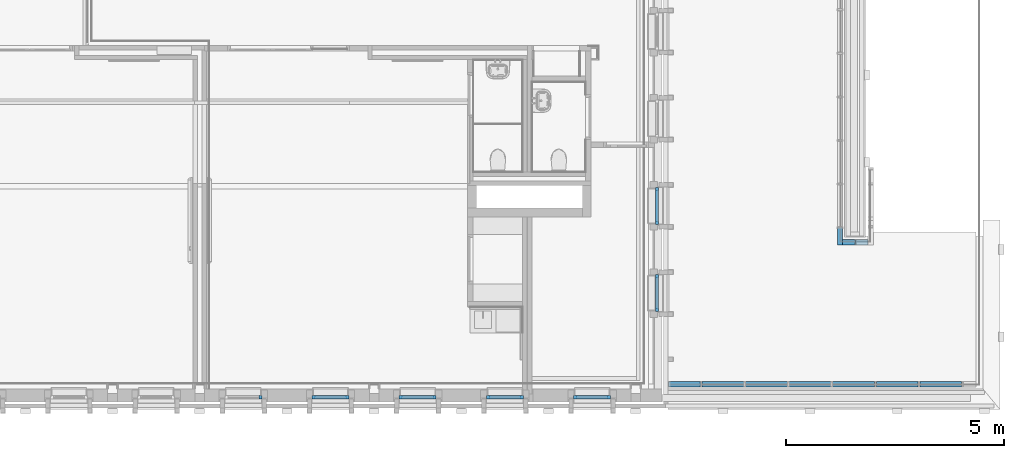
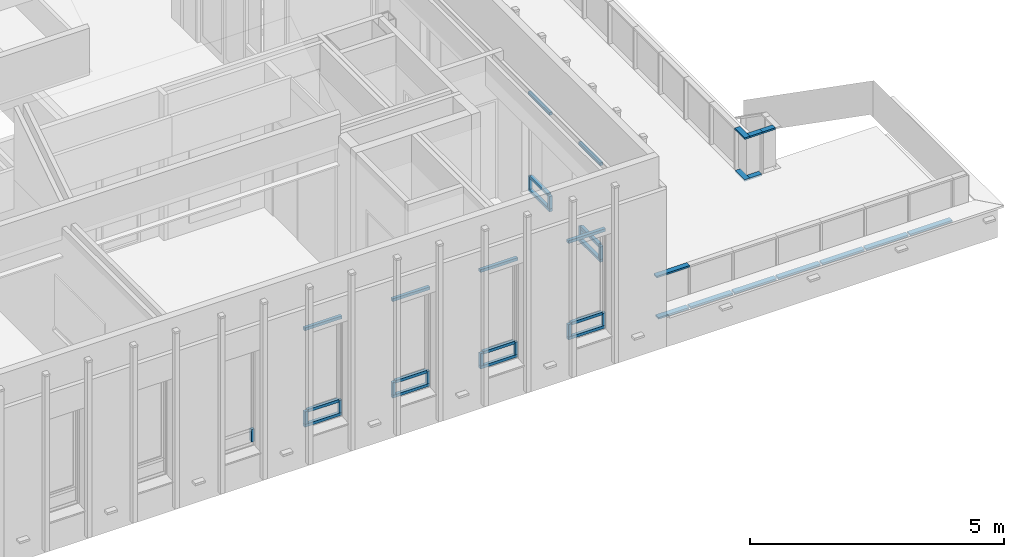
# One storey, part 10 of 118: 44 members, 10 elements without a shape of their own.
"""IFC2X3 building model written with IfcOpenShell, lengths in millimetres."""

from ifc_helpers import new_model, entity, si_unit, converted_unit, derived_unit, direction, frame, origin, origin_2d_with_axis, place, context, subcontext, project, spatial, rectangle, extrude, source, transform, mapped, material, material_list, type_object, type_shapes, element, aggregate, save


model = new_model("IFC2X3")

# Units and contexts
model_context = context("Model", 3, precision=0.01, world=origin(), true_north=direction((6.123031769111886e-17, 1.0)))
plan_context = context("Plan", 3, precision=0.01, world=origin(), true_north=direction((6.123031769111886e-17, 1.0)))
body_context = subcontext(model_context, "Body", "Model", "MODEL_VIEW")
ifc_project = project(units=[si_unit("LENGTHUNIT", "METRE", prefix="MILLI"), si_unit("AREAUNIT", "SQUARE_METRE"), si_unit("VOLUMEUNIT", "CUBIC_METRE"), converted_unit("PLANEANGLEUNIT", "DEGREE", entity("IfcRatioMeasure", 0.017453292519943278), si_unit("PLANEANGLEUNIT", "RADIAN"), dimensions=[0, 0, 0, 0, 0, 0, 0]), si_unit("MASSUNIT", "GRAM", prefix="KILO"), derived_unit("MASSDENSITYUNIT", [(si_unit("MASSUNIT", "GRAM", prefix="KILO"), 1), (si_unit("LENGTHUNIT", "METRE"), -3)]), derived_unit("IONCONCENTRATIONUNIT", [(si_unit("MASSUNIT", "GRAM", prefix="KILO"), 1), (si_unit("LENGTHUNIT", "METRE"), -3)]), derived_unit("MOMENTOFINERTIAUNIT", [(si_unit("LENGTHUNIT", "METRE"), 4)]), si_unit("TIMEUNIT", "SECOND"), si_unit("FREQUENCYUNIT", "HERTZ"), si_unit("THERMODYNAMICTEMPERATUREUNIT", "DEGREE_CELSIUS"), derived_unit("THERMALTRANSMITTANCEUNIT", [(si_unit("MASSUNIT", "GRAM", prefix="KILO"), 1), (si_unit("THERMODYNAMICTEMPERATUREUNIT", "KELVIN"), -1), (si_unit("TIMEUNIT", "SECOND"), -3)]), derived_unit("THERMALCONDUCTANCEUNIT", [(si_unit("MASSUNIT", "GRAM", prefix="KILO"), 1), (si_unit("THERMODYNAMICTEMPERATUREUNIT", "KELVIN"), -1), (si_unit("TIMEUNIT", "SECOND"), -3), (si_unit("LENGTHUNIT", "METRE"), 1)]), derived_unit("VOLUMETRICFLOWRATEUNIT", [(si_unit("LENGTHUNIT", "METRE"), 3), (si_unit("TIMEUNIT", "SECOND"), -1)]), derived_unit("MASSFLOWRATEUNIT", [(si_unit("MASSUNIT", "GRAM", prefix="KILO"), 1), (si_unit("TIMEUNIT", "SECOND"), -1)]), derived_unit("ROTATIONALFREQUENCYUNIT", [(si_unit("TIMEUNIT", "SECOND"), -1)]), si_unit("ELECTRICCURRENTUNIT", "AMPERE"), si_unit("ELECTRICVOLTAGEUNIT", "VOLT"), si_unit("POWERUNIT", "WATT"), si_unit("FORCEUNIT", "NEWTON", prefix="KILO"), si_unit("ILLUMINANCEUNIT", "LUX"), si_unit("LUMINOUSFLUXUNIT", "LUMEN"), si_unit("LUMINOUSINTENSITYUNIT", "CANDELA"), derived_unit("USERDEFINED", [(si_unit("MASSUNIT", "GRAM", prefix="KILO"), -1), (si_unit("LENGTHUNIT", "METRE"), -2), (si_unit("TIMEUNIT", "SECOND"), 3), (si_unit("LUMINOUSFLUXUNIT", "LUMEN"), 1)]), derived_unit("USERDEFINED", [(si_unit("MASSUNIT", "GRAM", prefix="KILO"), 1), (si_unit("TIMEUNIT", "SECOND"), -3), (si_unit("LENGTHUNIT", "METRE"), 3), (si_unit("ELECTRICCURRENTUNIT", "AMPERE"), -2)]), derived_unit("SOUNDPOWERUNIT", [(si_unit("MASSUNIT", "GRAM", prefix="KILO"), 1), (si_unit("TIMEUNIT", "SECOND"), -3), (si_unit("LENGTHUNIT", "METRE"), 2)]), derived_unit("SOUNDPRESSUREUNIT", [(si_unit("MASSUNIT", "GRAM", prefix="KILO"), 1), (si_unit("LENGTHUNIT", "METRE"), -1), (si_unit("TIMEUNIT", "SECOND"), -2)]), derived_unit("LINEARVELOCITYUNIT", [(si_unit("LENGTHUNIT", "METRE"), 1), (si_unit("TIMEUNIT", "SECOND"), -1)]), si_unit("PRESSUREUNIT", "PASCAL"), derived_unit("USERDEFINED", [(si_unit("MASSUNIT", "GRAM", prefix="KILO"), 1), (si_unit("LENGTHUNIT", "METRE"), -2), (si_unit("TIMEUNIT", "SECOND"), -2)]), derived_unit("LINEARFORCEUNIT", [(si_unit("MASSUNIT", "GRAM", prefix="KILO"), 1), (si_unit("TIMEUNIT", "SECOND"), -2)]), derived_unit("PLANARFORCEUNIT", [(si_unit("MASSUNIT", "GRAM", prefix="KILO"), 1), (si_unit("LENGTHUNIT", "METRE"), -1), (si_unit("TIMEUNIT", "SECOND"), -2)]), derived_unit("SPECIFICHEATCAPACITYUNIT", [(si_unit("THERMODYNAMICTEMPERATUREUNIT", "KELVIN"), -1), (si_unit("LENGTHUNIT", "METRE"), 2), (si_unit("TIMEUNIT", "SECOND"), -2)]), derived_unit("HEATINGVALUEUNIT", [(si_unit("LENGTHUNIT", "METRE"), 2), (si_unit("TIMEUNIT", "SECOND"), -2)]), derived_unit("VAPORPERMEABILITYUNIT", [(si_unit("LENGTHUNIT", "METRE"), -1), (si_unit("TIMEUNIT", "SECOND"), 1)]), derived_unit("DYNAMICVISCOSITYUNIT", [(si_unit("MASSUNIT", "GRAM", prefix="KILO"), 1), (si_unit("TIMEUNIT", "SECOND"), -1), (si_unit("LENGTHUNIT", "METRE"), -1)]), derived_unit("THERMALEXPANSIONCOEFFICIENTUNIT", [(si_unit("THERMODYNAMICTEMPERATUREUNIT", "KELVIN"), -1)]), derived_unit("MODULUSOFELASTICITYUNIT", [(si_unit("MASSUNIT", "GRAM", prefix="KILO"), 1), (si_unit("LENGTHUNIT", "METRE"), -1), (si_unit("TIMEUNIT", "SECOND"), -2)]), derived_unit("ISOTHERMALMOISTURECAPACITYUNIT", [(si_unit("LENGTHUNIT", "METRE"), 3), (si_unit("MASSUNIT", "GRAM", prefix="KILO"), -1)]), derived_unit("MOISTUREDIFFUSIVITYUNIT", [(si_unit("TIMEUNIT", "SECOND"), -1), (si_unit("LENGTHUNIT", "METRE"), 2)])], contexts=[model_context, plan_context])

# Site, building, storey
site_placement = place(None, origin())
site = spatial("IfcSite", under=ifc_project, at=site_placement, Name="Locatie", CompositionType="ELEMENT")
building_placement = place(site_placement, origin())
building = spatial("IfcBuilding", under=site, at=building_placement, Name="Bouwwerk", CompositionType="ELEMENT")
storey_placement = place(building_placement, frame((0.0, 0.0, 7800.0)))
storey = spatial("IfcBuildingStorey", under=building, at=storey_placement, Name="02 tweede verdieping", CompositionType="ELEMENT", Elevation=7800.000000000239)

# Curtain wall, member
curtain_wall_type_1 = type_object("IfcCurtainWallType", Name="Curtain Wall:NLRS_21_CW_Ontwerpkozijn_aluminium_RT72", PredefinedType="NOTDEFINED")
curtain_wall_1_placement = place(storey_placement, frame((0.0, 0.0, -7800.0)))
curtain_wall_1 = element("IfcCurtainWall", 1, at=curtain_wall_1_placement, inside=storey, type_object=curtain_wall_type_1, Name="Curtain Wall:NLRS_21_CW_Ontwerpkozijn_aluminium_RT72", ObjectType="Curtain Wall:NLRS_21_CW_Ontwerpkozijn_aluminium_RT72")
ifc_material_1 = material(Name="a_kozijn")
ifc_material_2 = material(Name="<Unnamed>")
ifc_material_list = material_list([ifc_material_2, ifc_material_1])
member_type_1 = type_object("IfcMemberType", Name="Rectangular Mullion:RT72_Vb_raam", PredefinedType="MULLION", material=ifc_material_list)
shared_shape_1 = source(origin(), body_context, "Body", "SweptSolid", [
    extrude(rectangle(XDim=71.99999999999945, YDim=68.00000000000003, at=origin_2d_with_axis()), frame((-34.0, -36.0, -850.0), z_axis=(0.0, 0.0, 1.0), x_axis=(0.0, -1.0, 0.0)), (0.0, 0.0, 1.0), 850.0000000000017),
])
type_shapes(member_type_1, [shared_shape_1])
member_1_placement = place(curtain_wall_1_placement, frame((34753.0, 13775.0, 10863.0), z_axis=(0.0, -1.0, 0.0), x_axis=(0.0, 0.0, 1.0)))
member_1 = element("IfcMember", 2, at=member_1_placement, type_object=member_type_1, material=ifc_material_1, Name="Rectangular Mullion:RT72_Vb_raam", ObjectType="Rectangular Mullion:RT72_Vb_raam", context=body_context, shape_type="MappedRepresentation", body=[
    mapped(shared_shape_1, transform((0.0, 0.0, 0.0), scale=1.0)),
])

curtain_wall_2_placement = place(storey_placement, frame((0.0, 0.0, -7800.0)))
curtain_wall_2 = element("IfcCurtainWall", 3, at=curtain_wall_2_placement, inside=storey, type_object=curtain_wall_type_1, Name="Curtain Wall:NLRS_21_CW_Ontwerpkozijn_aluminium_RT72", ObjectType="Curtain Wall:NLRS_21_CW_Ontwerpkozijn_aluminium_RT72")
member_2_placement = place(curtain_wall_2_placement, frame((26875.0, 9847.0, 10863.0), z_axis=(-1.0, 0.0, 0.0), x_axis=(0.0, 0.0, 1.0)))
member_2 = element("IfcMember", 4, at=member_2_placement, type_object=member_type_1, material=ifc_material_1, Name="Rectangular Mullion:RT72_Vb_raam", ObjectType="Rectangular Mullion:RT72_Vb_raam", context=body_context, shape_type="MappedRepresentation", body=[
    mapped(shared_shape_1, transform((0.0, 0.0, 0.0), scale=1.0)),
])

curtain_wall_3_placement = place(storey_placement, frame((0.0, 0.0, -7800.0)))
curtain_wall_3 = element("IfcCurtainWall", 5, at=curtain_wall_3_placement, inside=storey, type_object=curtain_wall_type_1, Name="Curtain Wall:NLRS_21_CW_Ontwerpkozijn_aluminium_RT72", ObjectType="Curtain Wall:NLRS_21_CW_Ontwerpkozijn_aluminium_RT72")
member_3_placement = place(curtain_wall_3_placement, frame((28875.0, 9847.0, 10863.0), z_axis=(-1.0, 0.0, 0.0), x_axis=(0.0, 0.0, 1.0)))
member_3 = element("IfcMember", 6, at=member_3_placement, type_object=member_type_1, material=ifc_material_1, Name="Rectangular Mullion:RT72_Vb_raam", ObjectType="Rectangular Mullion:RT72_Vb_raam", context=body_context, shape_type="MappedRepresentation", body=[
    mapped(shared_shape_1, transform((0.0, 0.0, 0.0), scale=1.0)),
])

curtain_wall_4_placement = place(storey_placement, frame((0.0, 0.0, -7800.0)))
curtain_wall_4 = element("IfcCurtainWall", 7, at=curtain_wall_4_placement, inside=storey, type_object=curtain_wall_type_1, Name="Curtain Wall:NLRS_21_CW_Ontwerpkozijn_aluminium_RT72", ObjectType="Curtain Wall:NLRS_21_CW_Ontwerpkozijn_aluminium_RT72")
member_4_placement = place(curtain_wall_4_placement, frame((32875.0, 9847.0, 10863.0), z_axis=(-1.0, 0.0, 0.0), x_axis=(0.0, 0.0, 1.0)))
member_4 = element("IfcMember", 8, at=member_4_placement, type_object=member_type_1, material=ifc_material_1, Name="Rectangular Mullion:RT72_Vb_raam", ObjectType="Rectangular Mullion:RT72_Vb_raam", context=body_context, shape_type="MappedRepresentation", body=[
    mapped(shared_shape_1, transform((0.0, 0.0, 0.0), scale=1.0)),
])

curtain_wall_5_placement = place(storey_placement, frame((0.0, 0.0, -7800.0)))
curtain_wall_5 = element("IfcCurtainWall", 9, at=curtain_wall_5_placement, inside=storey, type_object=curtain_wall_type_1, Name="Curtain Wall:NLRS_21_CW_Ontwerpkozijn_aluminium_RT72", ObjectType="Curtain Wall:NLRS_21_CW_Ontwerpkozijn_aluminium_RT72")
member_5_placement = place(curtain_wall_5_placement, frame((34753.0, 11775.0, 10863.0), z_axis=(0.0, -1.0, 0.0), x_axis=(0.0, 0.0, 1.0)))
member_5 = element("IfcMember", 10, at=member_5_placement, type_object=member_type_1, material=ifc_material_1, Name="Rectangular Mullion:RT72_Vb_raam", ObjectType="Rectangular Mullion:RT72_Vb_raam", context=body_context, shape_type="MappedRepresentation", body=[
    mapped(shared_shape_1, transform((0.0, 0.0, 0.0), scale=1.0)),
])

curtain_wall_6_placement = place(storey_placement, frame((0.0, 0.0, -7800.0)))
curtain_wall_6 = element("IfcCurtainWall", 11, at=curtain_wall_6_placement, inside=storey, type_object=curtain_wall_type_1, Name="Curtain Wall:NLRS_21_CW_Ontwerpkozijn_aluminium_RT72", ObjectType="Curtain Wall:NLRS_21_CW_Ontwerpkozijn_aluminium_RT72")
member_6_placement = place(curtain_wall_6_placement, frame((30875.0, 9847.0, 10863.0), z_axis=(-1.0, 0.0, 0.0), x_axis=(0.0, 0.0, 1.0)))
member_6 = element("IfcMember", 12, at=member_6_placement, type_object=member_type_1, material=ifc_material_1, Name="Rectangular Mullion:RT72_Vb_raam", ObjectType="Rectangular Mullion:RT72_Vb_raam", context=body_context, shape_type="MappedRepresentation", body=[
    mapped(shared_shape_1, transform((0.0, 0.0, 0.0), scale=1.0)),
])

# Member
member_type_2 = type_object("IfcMemberType", Name="Rectangular Mullion:RT72_Vo_raam", PredefinedType="MULLION", material=ifc_material_list)
shared_shape_2 = source(origin(), body_context, "Body", "SweptSolid", [
    extrude(rectangle(XDim=71.99999999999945, YDim=68.00000000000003, at=origin_2d_with_axis()), frame((-34.0, -36.0, -850.0), z_axis=(0.0, 0.0, 1.0), x_axis=(0.0, -1.0, 0.0)), (0.0, 0.0, 1.0), 850.0000000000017),
])
type_shapes(member_type_2, [shared_shape_2])
member_7_placement = place(curtain_wall_1_placement, frame((34753.0, 14625.0, 8473.0), z_axis=(0.0, 1.0, 0.0), x_axis=(0.0, 0.0, -1.0)))
member_7 = element("IfcMember", 13, at=member_7_placement, type_object=member_type_2, material=ifc_material_1, Name="Rectangular Mullion:RT72_Vo_raam", ObjectType="Rectangular Mullion:RT72_Vo_raam", context=body_context, shape_type="MappedRepresentation", body=[
    mapped(shared_shape_2, transform((0.0, 0.0, 0.0), scale=1.0)),
])

member_8_placement = place(curtain_wall_2_placement, frame((27725.0, 9847.0, 8473.0), z_axis=(1.0, 0.0, 0.0), x_axis=(0.0, 0.0, -1.0)))
member_8 = element("IfcMember", 14, at=member_8_placement, type_object=member_type_2, material=ifc_material_1, Name="Rectangular Mullion:RT72_Vo_raam", ObjectType="Rectangular Mullion:RT72_Vo_raam", context=body_context, shape_type="MappedRepresentation", body=[
    mapped(shared_shape_2, transform((0.0, 0.0, 0.0), scale=1.0)),
])

member_9_placement = place(curtain_wall_3_placement, frame((29725.0, 9847.0, 8473.0), z_axis=(1.0, 0.0, 0.0), x_axis=(0.0, 0.0, -1.0)))
member_9 = element("IfcMember", 15, at=member_9_placement, type_object=member_type_2, material=ifc_material_1, Name="Rectangular Mullion:RT72_Vo_raam", ObjectType="Rectangular Mullion:RT72_Vo_raam", context=body_context, shape_type="MappedRepresentation", body=[
    mapped(shared_shape_2, transform((0.0, 0.0, 0.0), scale=1.0)),
])

member_10_placement = place(curtain_wall_4_placement, frame((33725.0, 9847.0, 8473.0), z_axis=(1.0, 0.0, 0.0), x_axis=(0.0, 0.0, -1.0)))
member_10 = element("IfcMember", 16, at=member_10_placement, type_object=member_type_2, material=ifc_material_1, Name="Rectangular Mullion:RT72_Vo_raam", ObjectType="Rectangular Mullion:RT72_Vo_raam", context=body_context, shape_type="MappedRepresentation", body=[
    mapped(shared_shape_2, transform((0.0, 0.0, 0.0), scale=1.0)),
])

member_11_placement = place(curtain_wall_5_placement, frame((34753.0, 12625.0, 8473.0), z_axis=(0.0, 1.0, 0.0), x_axis=(0.0, 0.0, -1.0)))
member_11 = element("IfcMember", 17, at=member_11_placement, type_object=member_type_2, material=ifc_material_1, Name="Rectangular Mullion:RT72_Vo_raam", ObjectType="Rectangular Mullion:RT72_Vo_raam", context=body_context, shape_type="MappedRepresentation", body=[
    mapped(shared_shape_2, transform((0.0, 0.0, 0.0), scale=1.0)),
])

member_12_placement = place(curtain_wall_6_placement, frame((31725.0, 9847.0, 8473.0), z_axis=(1.0, 0.0, 0.0), x_axis=(0.0, 0.0, -1.0)))
member_12 = element("IfcMember", 18, at=member_12_placement, type_object=member_type_2, material=ifc_material_1, Name="Rectangular Mullion:RT72_Vo_raam", ObjectType="Rectangular Mullion:RT72_Vo_raam", context=body_context, shape_type="MappedRepresentation", body=[
    mapped(shared_shape_2, transform((0.0, 0.0, 0.0), scale=1.0)),
])

member_type_3 = type_object("IfcMemberType", Name="Rectangular Mullion:RT72_Hl_raam", PredefinedType="MULLION", material=ifc_material_list)
shared_shape_3 = source(origin(), body_context, "Body", "SweptSolid", [
    extrude(rectangle(XDim=71.99999999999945, YDim=68.00000000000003, at=origin_2d_with_axis()), frame((-34.0, -36.0, -301.0), z_axis=(0.0, 0.0, 1.0), x_axis=(0.0, -1.0, 0.0)), (0.0, 0.0, 1.0), 301.00000000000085),
])
type_shapes(member_type_3, [shared_shape_3])
member_13_placement = place(curtain_wall_1_placement, frame((34753.0, 13775.0, 8541.0), z_axis=(0.0, 0.0, -1.0), x_axis=(0.0, -1.0, 0.0)))
member_13 = element("IfcMember", 19, at=member_13_placement, type_object=member_type_3, material=ifc_material_1, Name="Rectangular Mullion:RT72_Hl_raam", ObjectType="Rectangular Mullion:RT72_Hl_raam", context=body_context, shape_type="MappedRepresentation", body=[
    mapped(shared_shape_3, transform((0.0, 0.0, 0.0), scale=1.0)),
])

member_14_placement = place(curtain_wall_2_placement, frame((26875.0, 9847.0, 8541.0), z_axis=(0.0, 0.0, -1.0), x_axis=(-1.0, 0.0, 0.0)))
member_14 = element("IfcMember", 20, at=member_14_placement, type_object=member_type_3, material=ifc_material_1, Name="Rectangular Mullion:RT72_Hl_raam", ObjectType="Rectangular Mullion:RT72_Hl_raam", context=body_context, shape_type="MappedRepresentation", body=[
    mapped(shared_shape_3, transform((0.0, 0.0, 0.0), scale=1.0)),
])

member_15_placement = place(curtain_wall_3_placement, frame((28875.0, 9847.0, 8541.0), z_axis=(0.0, 0.0, -1.0), x_axis=(-1.0, 0.0, 0.0)))
member_15 = element("IfcMember", 21, at=member_15_placement, type_object=member_type_3, material=ifc_material_1, Name="Rectangular Mullion:RT72_Hl_raam", ObjectType="Rectangular Mullion:RT72_Hl_raam", context=body_context, shape_type="MappedRepresentation", body=[
    mapped(shared_shape_3, transform((0.0, 0.0, 0.0), scale=1.0)),
])

member_16_placement = place(curtain_wall_4_placement, frame((32875.0, 9847.0, 8541.0), z_axis=(0.0, 0.0, -1.0), x_axis=(-1.0, 0.0, 0.0)))
member_16 = element("IfcMember", 22, at=member_16_placement, type_object=member_type_3, material=ifc_material_1, Name="Rectangular Mullion:RT72_Hl_raam", ObjectType="Rectangular Mullion:RT72_Hl_raam", context=body_context, shape_type="MappedRepresentation", body=[
    mapped(shared_shape_3, transform((0.0, 0.0, 0.0), scale=1.0)),
])

member_17_placement = place(curtain_wall_5_placement, frame((34753.0, 11775.0, 8541.0), z_axis=(0.0, 0.0, -1.0), x_axis=(0.0, -1.0, 0.0)))
member_17 = element("IfcMember", 23, at=member_17_placement, type_object=member_type_3, material=ifc_material_1, Name="Rectangular Mullion:RT72_Hl_raam", ObjectType="Rectangular Mullion:RT72_Hl_raam", context=body_context, shape_type="MappedRepresentation", body=[
    mapped(shared_shape_3, transform((0.0, 0.0, 0.0), scale=1.0)),
])

member_18_placement = place(curtain_wall_6_placement, frame((30875.0, 9847.0, 8541.0), z_axis=(0.0, 0.0, -1.0), x_axis=(-1.0, 0.0, 0.0)))
member_18 = element("IfcMember", 24, at=member_18_placement, type_object=member_type_3, material=ifc_material_1, Name="Rectangular Mullion:RT72_Hl_raam", ObjectType="Rectangular Mullion:RT72_Hl_raam", context=body_context, shape_type="MappedRepresentation", body=[
    mapped(shared_shape_3, transform((0.0, 0.0, 0.0), scale=1.0)),
])

# Curtain wall, member
curtain_wall_7_placement = place(storey_placement, frame((0.0, 0.0, -7800.0)))
curtain_wall_7 = element("IfcCurtainWall", 25, at=curtain_wall_7_placement, inside=storey, type_object=curtain_wall_type_1, Name="Curtain Wall:NLRS_21_CW_Ontwerpkozijn_aluminium_RT72", ObjectType="Curtain Wall:NLRS_21_CW_Ontwerpkozijn_aluminium_RT72")
member_type_4 = type_object("IfcMemberType", Name="Rectangular Mullion:RT72_Hr_raam", PredefinedType="MULLION", material=ifc_material_list)
shared_shape_4 = source(origin(), body_context, "Body", "SweptSolid", [
    extrude(rectangle(XDim=71.99999999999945, YDim=68.00000000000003, at=origin_2d_with_axis()), frame((-34.0, -36.0, -301.0), z_axis=(0.0, 0.0, 1.0), x_axis=(0.0, -1.0, 0.0)), (0.0, 0.0, 1.0), 301.00000000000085),
])
type_shapes(member_type_4, [shared_shape_4])
member_19_placement = place(curtain_wall_7_placement, frame((25725.0, 9847.0, 8842.0)))
member_19 = element("IfcMember", 26, at=member_19_placement, type_object=member_type_4, material=ifc_material_1, Name="Rectangular Mullion:RT72_Hr_raam", ObjectType="Rectangular Mullion:RT72_Hr_raam", context=body_context, shape_type="MappedRepresentation", body=[
    mapped(shared_shape_4, transform((0.0, 0.0, 0.0), scale=1.0)),
])
aggregate(curtain_wall_7, [member_19])

# Member
member_20_placement = place(curtain_wall_1_placement, frame((34753.0, 14625.0, 8842.0), z_axis=(0.0, 0.0, 1.0), x_axis=(0.0, 1.0, 0.0)))
member_20 = element("IfcMember", 27, at=member_20_placement, type_object=member_type_4, material=ifc_material_1, Name="Rectangular Mullion:RT72_Hr_raam", ObjectType="Rectangular Mullion:RT72_Hr_raam", context=body_context, shape_type="MappedRepresentation", body=[
    mapped(shared_shape_4, transform((0.0, 0.0, 0.0), scale=1.0)),
])

member_21_placement = place(curtain_wall_2_placement, frame((27725.0, 9847.0, 8842.0)))
member_21 = element("IfcMember", 28, at=member_21_placement, type_object=member_type_4, material=ifc_material_1, Name="Rectangular Mullion:RT72_Hr_raam", ObjectType="Rectangular Mullion:RT72_Hr_raam", context=body_context, shape_type="MappedRepresentation", body=[
    mapped(shared_shape_4, transform((0.0, 0.0, 0.0), scale=1.0)),
])

member_22_placement = place(curtain_wall_3_placement, frame((29725.0, 9847.0, 8842.0)))
member_22 = element("IfcMember", 29, at=member_22_placement, type_object=member_type_4, material=ifc_material_1, Name="Rectangular Mullion:RT72_Hr_raam", ObjectType="Rectangular Mullion:RT72_Hr_raam", context=body_context, shape_type="MappedRepresentation", body=[
    mapped(shared_shape_4, transform((0.0, 0.0, 0.0), scale=1.0)),
])

member_23_placement = place(curtain_wall_4_placement, frame((33725.0, 9847.0, 8842.0)))
member_23 = element("IfcMember", 30, at=member_23_placement, type_object=member_type_4, material=ifc_material_1, Name="Rectangular Mullion:RT72_Hr_raam", ObjectType="Rectangular Mullion:RT72_Hr_raam", context=body_context, shape_type="MappedRepresentation", body=[
    mapped(shared_shape_4, transform((0.0, 0.0, 0.0), scale=1.0)),
])

member_24_placement = place(curtain_wall_5_placement, frame((34753.0, 12625.0, 8842.0), z_axis=(0.0, 0.0, 1.0), x_axis=(0.0, 1.0, 0.0)))
member_24 = element("IfcMember", 31, at=member_24_placement, type_object=member_type_4, material=ifc_material_1, Name="Rectangular Mullion:RT72_Hr_raam", ObjectType="Rectangular Mullion:RT72_Hr_raam", context=body_context, shape_type="MappedRepresentation", body=[
    mapped(shared_shape_4, transform((0.0, 0.0, 0.0), scale=1.0)),
])

member_25_placement = place(curtain_wall_6_placement, frame((31725.0, 9847.0, 8842.0)))
member_25 = element("IfcMember", 32, at=member_25_placement, type_object=member_type_4, material=ifc_material_1, Name="Rectangular Mullion:RT72_Hr_raam", ObjectType="Rectangular Mullion:RT72_Hr_raam", context=body_context, shape_type="MappedRepresentation", body=[
    mapped(shared_shape_4, transform((0.0, 0.0, 0.0), scale=1.0)),
])

member_type_5 = type_object("IfcMemberType", Name="Rectangular Mullion:RT72_Vb_raam", PredefinedType="MULLION", material=ifc_material_list)
shared_shape_5 = source(origin(), body_context, "Body", "SweptSolid", [
    extrude(rectangle(XDim=71.99999999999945, YDim=68.00000000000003, at=origin_2d_with_axis()), frame((0.0, -36.0, -714.0), z_axis=(0.0, 0.0, 1.0), x_axis=(0.0, -1.0, 0.0)), (0.0, 0.0, 1.0), 714.0000000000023),
])
type_shapes(member_type_5, [shared_shape_5])
member_26_placement = place(curtain_wall_1_placement, frame((34753.0, 13843.0, 8842.0), z_axis=(0.0, -1.0, 0.0), x_axis=(0.0, 0.0, 1.0)))
member_26 = element("IfcMember", 33, at=member_26_placement, type_object=member_type_5, material=ifc_material_1, Name="Rectangular Mullion:RT72_Vb_raam", ObjectType="Rectangular Mullion:RT72_Vb_raam", context=body_context, shape_type="MappedRepresentation", body=[
    mapped(shared_shape_5, transform((0.0, 0.0, 0.0), scale=1.0)),
])

aggregate(curtain_wall_1, [member_1, member_7, member_13, member_20, member_26])

member_27_placement = place(curtain_wall_2_placement, frame((26943.0, 9847.0, 8842.0), z_axis=(-1.0, 0.0, 0.0), x_axis=(0.0, 0.0, 1.0)))
member_27 = element("IfcMember", 34, at=member_27_placement, type_object=member_type_5, material=ifc_material_1, Name="Rectangular Mullion:RT72_Vb_raam", ObjectType="Rectangular Mullion:RT72_Vb_raam", context=body_context, shape_type="MappedRepresentation", body=[
    mapped(shared_shape_5, transform((0.0, 0.0, 0.0), scale=1.0)),
])

aggregate(curtain_wall_2, [member_2, member_8, member_14, member_21, member_27])

member_28_placement = place(curtain_wall_3_placement, frame((28943.0, 9847.0, 8842.0), z_axis=(-1.0, 0.0, 0.0), x_axis=(0.0, 0.0, 1.0)))
member_28 = element("IfcMember", 35, at=member_28_placement, type_object=member_type_5, material=ifc_material_1, Name="Rectangular Mullion:RT72_Vb_raam", ObjectType="Rectangular Mullion:RT72_Vb_raam", context=body_context, shape_type="MappedRepresentation", body=[
    mapped(shared_shape_5, transform((0.0, 0.0, 0.0), scale=1.0)),
])

aggregate(curtain_wall_3, [member_3, member_9, member_15, member_22, member_28])

member_29_placement = place(curtain_wall_4_placement, frame((32943.0, 9847.0, 8842.0), z_axis=(-1.0, 0.0, 0.0), x_axis=(0.0, 0.0, 1.0)))
member_29 = element("IfcMember", 36, at=member_29_placement, type_object=member_type_5, material=ifc_material_1, Name="Rectangular Mullion:RT72_Vb_raam", ObjectType="Rectangular Mullion:RT72_Vb_raam", context=body_context, shape_type="MappedRepresentation", body=[
    mapped(shared_shape_5, transform((0.0, 0.0, 0.0), scale=1.0)),
])

aggregate(curtain_wall_4, [member_4, member_10, member_16, member_23, member_29])

member_30_placement = place(curtain_wall_5_placement, frame((34753.0, 11843.0, 8842.0), z_axis=(0.0, -1.0, 0.0), x_axis=(0.0, 0.0, 1.0)))
member_30 = element("IfcMember", 37, at=member_30_placement, type_object=member_type_5, material=ifc_material_1, Name="Rectangular Mullion:RT72_Vb_raam", ObjectType="Rectangular Mullion:RT72_Vb_raam", context=body_context, shape_type="MappedRepresentation", body=[
    mapped(shared_shape_5, transform((0.0, 0.0, 0.0), scale=1.0)),
])

aggregate(curtain_wall_5, [member_5, member_11, member_17, member_24, member_30])

member_31_placement = place(curtain_wall_6_placement, frame((30943.0, 9847.0, 8842.0), z_axis=(-1.0, 0.0, 0.0), x_axis=(0.0, 0.0, 1.0)))
member_31 = element("IfcMember", 38, at=member_31_placement, type_object=member_type_5, material=ifc_material_1, Name="Rectangular Mullion:RT72_Vb_raam", ObjectType="Rectangular Mullion:RT72_Vb_raam", context=body_context, shape_type="MappedRepresentation", body=[
    mapped(shared_shape_5, transform((0.0, 0.0, 0.0), scale=1.0)),
])

aggregate(curtain_wall_6, [member_6, member_12, member_18, member_25, member_31])

# Curtain wall, members
curtain_wall_type_2 = type_object("IfcCurtainWallType", Name="Curtain Wall:railing 120x40", PredefinedType="NOTDEFINED")
curtain_wall_8_placement = place(storey_placement, frame((0.0, 0.0, -7800.0)))
curtain_wall_8 = element("IfcCurtainWall", 39, at=curtain_wall_8_placement, inside=storey, type_object=curtain_wall_type_2, Name="Curtain Wall:railing 120x40", ObjectType="Curtain Wall:railing 120x40")
ifc_material_3 = material(Name="staal")
member_type_6 = type_object("IfcMemberType", Name="Rectangular Mullion:40x120 railing", PredefinedType="MULLION", material=ifc_material_3)
shared_shape_6 = source(origin(), body_context, "Body", "SweptSolid", [
    extrude(rectangle(XDim=120.0, YDim=40.0, at=origin_2d_with_axis()), frame((-20.0, 0.0, -960.0), z_axis=(0.0, 0.0, 1.0), x_axis=(0.0, -1.0, 0.0)), (0.0, 0.0, 1.0), 959.9999999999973),
])
type_shapes(member_type_6, [shared_shape_6])
member_32_placement = place(curtain_wall_8_placement, frame((35820.0, 10110.0, 8033.0), z_axis=(-1.0, 0.0, 0.0), x_axis=(0.0, 0.0, -1.0)))
member_32 = element("IfcMember", 40, at=member_32_placement, type_object=member_type_6, material=ifc_material_3, Name="Rectangular Mullion:40x120 railing", ObjectType="Rectangular Mullion:40x120 railing", context=body_context, shape_type="MappedRepresentation", body=[
    mapped(shared_shape_6, transform((0.0, 0.0, 0.0), scale=1.0)),
])
member_33_placement = place(curtain_wall_8_placement, frame((37820.0, 10110.0, 8033.0), z_axis=(-1.0, 0.0, 0.0), x_axis=(0.0, 0.0, -1.0)))
member_33 = element("IfcMember", 41, at=member_33_placement, type_object=member_type_6, material=ifc_material_3, Name="Rectangular Mullion:40x120 railing", ObjectType="Rectangular Mullion:40x120 railing", context=body_context, shape_type="MappedRepresentation", body=[
    mapped(shared_shape_6, transform((0.0, 0.0, 0.0), scale=1.0)),
])
member_34_placement = place(curtain_wall_8_placement, frame((39820.0, 10110.0, 8033.0), z_axis=(-1.0, 0.0, 0.0), x_axis=(0.0, 0.0, -1.0)))
member_34 = element("IfcMember", 42, at=member_34_placement, type_object=member_type_6, material=ifc_material_3, Name="Rectangular Mullion:40x120 railing", ObjectType="Rectangular Mullion:40x120 railing", context=body_context, shape_type="MappedRepresentation", body=[
    mapped(shared_shape_6, transform((0.0, 0.0, 0.0), scale=1.0)),
])
member_35_placement = place(curtain_wall_8_placement, frame((36820.0, 10110.0, 8033.0), z_axis=(-1.0, 0.0, 0.0), x_axis=(0.0, 0.0, -1.0)))
member_35 = element("IfcMember", 43, at=member_35_placement, type_object=member_type_6, material=ifc_material_3, Name="Rectangular Mullion:40x120 railing", ObjectType="Rectangular Mullion:40x120 railing", context=body_context, shape_type="MappedRepresentation", body=[
    mapped(shared_shape_6, transform((0.0, 0.0, 0.0), scale=1.0)),
])
member_36_placement = place(curtain_wall_8_placement, frame((38820.0, 10110.0, 8033.0), z_axis=(-1.0, 0.0, 0.0), x_axis=(0.0, 0.0, -1.0)))
member_36 = element("IfcMember", 44, at=member_36_placement, type_object=member_type_6, material=ifc_material_3, Name="Rectangular Mullion:40x120 railing", ObjectType="Rectangular Mullion:40x120 railing", context=body_context, shape_type="MappedRepresentation", body=[
    mapped(shared_shape_6, transform((0.0, 0.0, 0.0), scale=1.0)),
])
member_37_placement = place(curtain_wall_8_placement, frame((40820.0, 10110.0, 8033.0), z_axis=(-1.0, 0.0, 0.0), x_axis=(0.0, 0.0, -1.0)))
member_37 = element("IfcMember", 45, at=member_37_placement, type_object=member_type_6, material=ifc_material_3, Name="Rectangular Mullion:40x120 railing", ObjectType="Rectangular Mullion:40x120 railing", context=body_context, shape_type="MappedRepresentation", body=[
    mapped(shared_shape_6, transform((0.0, 0.0, 0.0), scale=1.0)),
])
member_type_7 = type_object("IfcMemberType", Name="Rectangular Mullion:40x120 railing", PredefinedType="MULLION", material=ifc_material_3)
shared_shape_7 = source(origin(), body_context, "Body", "SweptSolid", [
    extrude(rectangle(XDim=120.0, YDim=40.0, at=origin_2d_with_axis()), frame((-20.0, 0.0, -690.0), z_axis=(0.0, 0.0, 1.0), x_axis=(0.0, -1.0, 0.0)), (0.0, 0.0, 1.0), 690.0000000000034),
])
type_shapes(member_type_7, [shared_shape_7])
member_38_placement = place(curtain_wall_8_placement, frame((35090.0, 10110.0, 8033.0), z_axis=(-1.0, 0.0, 0.0), x_axis=(0.0, 0.0, -1.0)))
member_38 = element("IfcMember", 46, at=member_38_placement, type_object=member_type_7, material=ifc_material_3, Name="Rectangular Mullion:40x120 railing", ObjectType="Rectangular Mullion:40x120 railing", context=body_context, shape_type="MappedRepresentation", body=[
    mapped(shared_shape_7, transform((0.0, 0.0, 0.0), scale=1.0)),
])
member_type_8 = type_object("IfcMemberType", Name="Rectangular Mullion:40x120 railing", PredefinedType="MULLION", material=ifc_material_3)
shared_shape_8 = source(origin(), body_context, "Body", "SweptSolid", [
    extrude(rectangle(XDim=120.0, YDim=40.0, at=origin_2d_with_axis()), frame((-20.0, 0.0, -750.0), z_axis=(0.0, 0.0, 1.0), x_axis=(0.0, -1.0, 0.0)), (0.0, 0.0, 1.0), 750.0000000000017),
])
type_shapes(member_type_8, [shared_shape_8])
member_39_placement = place(curtain_wall_8_placement, frame((35800.0, 10110.0, 9080.0), z_axis=(1.0, 0.0, 0.0), x_axis=(0.0, 0.0, 1.0)))
member_39 = element("IfcMember", 47, at=member_39_placement, type_object=member_type_8, material=ifc_material_3, Name="Rectangular Mullion:40x120 railing", ObjectType="Rectangular Mullion:40x120 railing", context=body_context, shape_type="MappedRepresentation", body=[
    mapped(shared_shape_8, transform((0.0, 0.0, 0.0), scale=1.0)),
])
aggregate(curtain_wall_8, [member_38, member_39, member_32, member_33, member_34, member_35, member_36, member_37])

curtain_wall_9_placement = place(storey_placement, frame((0.0, 0.0, -7800.0)))
curtain_wall_9 = element("IfcCurtainWall", 48, at=curtain_wall_9_placement, inside=storey, type_object=curtain_wall_type_2, Name="Curtain Wall:railing 120x40", ObjectType="Curtain Wall:railing 120x40")
member_type_9 = type_object("IfcMemberType", Name="Rectangular Mullion:40x120 railing", PredefinedType="MULLION", material=ifc_material_3)
shared_shape_9 = source(origin(), body_context, "Body", "SweptSolid", [
    extrude(rectangle(XDim=120.0, YDim=40.0, at=origin_2d_with_axis()), frame((-20.0, 0.0, -292.28524124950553), z_axis=(0.0, 0.0, 1.0), x_axis=(0.0, -1.0, 0.0)), (0.0, 0.0, 1.0), 292.28524124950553),
])
type_shapes(member_type_9, [shared_shape_9])
member_40_placement = place(curtain_wall_9_placement, frame((39050.0, 13365.0, 9080.0), z_axis=(-1.0, 0.0, 0.0), x_axis=(0.0, 0.0, 1.0)))
member_40 = element("IfcMember", 49, at=member_40_placement, type_object=member_type_9, material=ifc_material_3, Name="Rectangular Mullion:40x120 railing", ObjectType="Rectangular Mullion:40x120 railing", context=body_context, shape_type="MappedRepresentation", body=[
    mapped(shared_shape_9, transform((0.0, 0.0, 0.0), scale=1.0)),
])
member_type_10 = type_object("IfcMemberType", Name="Rectangular Mullion:40x120 railing", PredefinedType="MULLION", material=ifc_material_3)
shared_shape_10 = source(origin(), body_context, "Body", "SweptSolid", [
    extrude(rectangle(XDim=120.0, YDim=40.0, at=origin_2d_with_axis()), frame((-20.0, 0.0, -292.28524124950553), z_axis=(0.0, 0.0, 1.0), x_axis=(0.0, -1.0, 0.0)), (0.0, 0.0, 1.0), 292.28524124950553),
])
type_shapes(member_type_10, [shared_shape_10])
member_41_placement = place(curtain_wall_9_placement, frame((39342.2852412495, 13365.0, 9080.0), z_axis=(-1.0, 0.0, 0.0), x_axis=(0.0, 0.0, 1.0)))
member_41 = element("IfcMember", 50, at=member_41_placement, type_object=member_type_10, material=ifc_material_3, Name="Rectangular Mullion:40x120 railing", ObjectType="Rectangular Mullion:40x120 railing", context=body_context, shape_type="MappedRepresentation", body=[
    mapped(shared_shape_10, transform((0.0, 0.0, 0.0), scale=1.0)),
])
member_type_11 = type_object("IfcMemberType", Name="Rectangular Mullion:40x120 railing", PredefinedType="MULLION", material=ifc_material_3)
shared_shape_11 = source(origin(), body_context, "Body", "SweptSolid", [
    extrude(rectangle(XDim=120.0, YDim=40.0, at=origin_2d_with_axis()), frame((-20.0, 0.0, -272.28524124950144), z_axis=(0.0, 0.0, 1.0), x_axis=(0.0, -1.0, 0.0)), (0.0, 0.0, 1.0), 272.28524124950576),
])
type_shapes(member_type_11, [shared_shape_11])
member_42_placement = place(curtain_wall_9_placement, frame((39322.2852412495, 13365.0, 8033.0), z_axis=(1.0, 0.0, 0.0), x_axis=(0.0, 0.0, -1.0)))
member_42 = element("IfcMember", 51, at=member_42_placement, type_object=member_type_11, material=ifc_material_3, Name="Rectangular Mullion:40x120 railing", ObjectType="Rectangular Mullion:40x120 railing", context=body_context, shape_type="MappedRepresentation", body=[
    mapped(shared_shape_11, transform((0.0, 0.0, 0.0), scale=1.0)),
])
aggregate(curtain_wall_9, [member_40, member_41, member_42])

curtain_wall_10_placement = place(storey_placement, frame((0.0, 0.0, -7800.0)))
curtain_wall_10 = element("IfcCurtainWall", 52, at=curtain_wall_10_placement, inside=storey, type_object=curtain_wall_type_2, Name="Curtain Wall:railing 120x40", ObjectType="Curtain Wall:railing 120x40")
member_type_12 = type_object("IfcMemberType", Name="Rectangular Mullion:40x120 railing", PredefinedType="MULLION", material=ifc_material_3)
shared_shape_12 = source(origin(), body_context, "Body", "SweptSolid", [
    extrude(rectangle(XDim=120.0, YDim=40.0, at=origin_2d_with_axis()), frame((-20.0, 0.0, -375.0), z_axis=(0.0, 0.0, 1.0), x_axis=(0.0, -1.0, 0.0)), (0.0, 0.0, 1.0), 374.9999999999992),
])
type_shapes(member_type_12, [shared_shape_12])
member_43_placement = place(curtain_wall_10_placement, frame((38990.0, 13305.0, 8033.0), z_axis=(0.0, -1.0, 0.0), x_axis=(0.0, 0.0, -1.0)))
member_43 = element("IfcMember", 53, at=member_43_placement, type_object=member_type_12, material=ifc_material_3, Name="Rectangular Mullion:40x120 railing", ObjectType="Rectangular Mullion:40x120 railing", context=body_context, shape_type="MappedRepresentation", body=[
    mapped(shared_shape_12, transform((0.0, 0.0, 0.0), scale=1.0)),
])
member_type_13 = type_object("IfcMemberType", Name="Rectangular Mullion:40x120 railing", PredefinedType="MULLION", material=ifc_material_3)
shared_shape_13 = source(origin(), body_context, "Body", "SweptSolid", [
    extrude(rectangle(XDim=120.0, YDim=40.0, at=origin_2d_with_axis()), frame((-20.0, 0.0, -395.0), z_axis=(0.0, 0.0, 1.0), x_axis=(0.0, -1.0, 0.0)), (0.0, 0.0, 1.0), 394.9999999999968),
])
type_shapes(member_type_13, [shared_shape_13])
member_44_placement = place(curtain_wall_10_placement, frame((38990.0, 13700.0, 9080.0), z_axis=(0.0, 1.0, 0.0), x_axis=(0.0, 0.0, 1.0)))
member_44 = element("IfcMember", 54, at=member_44_placement, type_object=member_type_13, material=ifc_material_3, Name="Rectangular Mullion:40x120 railing", ObjectType="Rectangular Mullion:40x120 railing", context=body_context, shape_type="MappedRepresentation", body=[
    mapped(shared_shape_13, transform((0.0, 0.0, 0.0), scale=1.0)),
])
aggregate(curtain_wall_10, [member_43, member_44])

save(model, "model.ifc")
